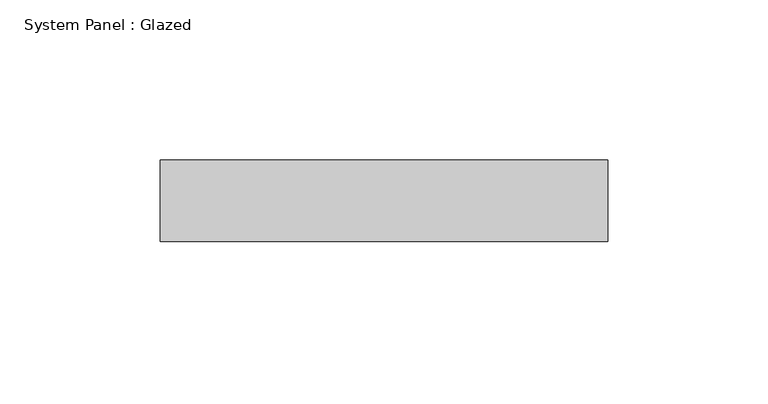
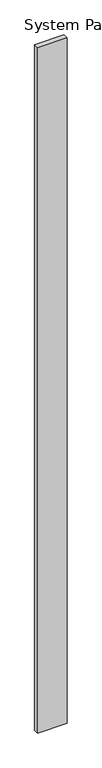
"""IFC4 building model written with IfcOpenShell, lengths in millimetres: plate geometry, System Panel : Glazed."""

import ifcopenshell
import ifcopenshell.guid

model = None  # the IFC model being written
_history = None  # IfcOwnerHistory: only IFC2X3 demands one
_inside = {}  # id of a spatial element -> (the spatial element, [elements in it])
_under = {}  # id of a project, library or spatial element -> (it, [spatial elements below it])
_declared = {}  # id of a project -> (the project, [libraries it declares])
_typed = {}  # id of a type object -> (the type object, [elements of that type])
_made_of = {}  # id of a material, layer set ... -> (it, [elements and type objects made of it])


def new_model(schema):
    """Start an empty IFC model of exactly this schema.

    Asked for "IFC4X3", IfcOpenShell would pick the latest addendum, in which some entities
    have other attributes; the version numbers below select the first issue.
    IFC2X3 requires an IfcOwnerHistory on every rooted entity: one is made here for all.
    """
    global model, _history
    if schema == "IFC4X3":
        model = ifcopenshell.file(schema_version=(4, 3, 0, 0))
    else:
        model = ifcopenshell.file(schema=schema)
    _inside.clear()
    _under.clear()
    _declared.clear()
    _typed.clear()
    _made_of.clear()
    _history = None
    if model.schema == "IFC2X3":
        org = make("IfcOrganization", Name="unknown")
        user = make(
            "IfcPersonAndOrganization",
            ThePerson=make("IfcPerson", FamilyName="unknown"),
            TheOrganization=org,
        )
        app = make(
            "IfcApplication",
            ApplicationDeveloper=org,
            Version="unknown",
            ApplicationFullName="unknown",
            ApplicationIdentifier="unknown",
        )
        _history = make(
            "IfcOwnerHistory",
            OwningUser=user,
            OwningApplication=app,
            ChangeAction="ADDED",
            CreationDate=0,
        )
    return model


def make(cls, **values):
    """One entity of the class cls with the attributes given. An attribute that is None is left unset."""
    return model.create_entity(
        cls, **{name: value for name, value in values.items() if value is not None}
    )


def rooted(cls, **values):
    """An entity with a GlobalId (a new one), such as an element, a storey or a relation."""
    return make(cls, GlobalId=ifcopenshell.guid.new(), OwnerHistory=_history, **values)


def si_unit(unit_type, name, prefix=None):
    """IfcSIUnit, for example si_unit("LENGTHUNIT", "METRE", prefix="MILLI")."""
    return make("IfcSIUnit", UnitType=unit_type, Prefix=prefix, Name=name)


def assignment(units):
    """IfcUnitAssignment: the units of a project."""
    return None if units is None else make("IfcUnitAssignment", Units=units)


def point(xyz):
    """IfcCartesianPoint."""
    return None if xyz is None else make("IfcCartesianPoint", Coordinates=xyz)


def direction(xyz):
    """IfcDirection."""
    return None if xyz is None else make("IfcDirection", DirectionRatios=xyz)


def frame(location, z_axis=None, x_axis=None):
    """IfcAxis2Placement3D, a coordinate frame: its origin and axes. An axis left out is left unset."""
    return make(
        "IfcAxis2Placement3D",
        Location=point(location),
        Axis=direction(z_axis),
        RefDirection=direction(x_axis),
    )


def origin():
    """The frame at (0, 0, 0) with its axes left unset."""
    return frame((0.0, 0.0, 0.0))


def origin_with_axes():
    """The frame at (0, 0, 0) with the z axis (0, 0, 1) and the x axis (1, 0, 0) written out."""
    return frame((0.0, 0.0, 0.0), z_axis=(0.0, 0.0, 1.0), x_axis=(1.0, 0.0, 0.0))


def place(relative_to, where):
    """IfcLocalPlacement: puts the frame where relative to a parent placement (None: the world)."""
    return make(
        "IfcLocalPlacement", PlacementRelTo=relative_to, RelativePlacement=where
    )


def context(
    kind, dimensions, precision=None, world=None, true_north=None, identifier=None
):
    """IfcGeometricRepresentationContext, for example the 3D "Model" context."""
    return make(
        "IfcGeometricRepresentationContext",
        ContextIdentifier=identifier,
        ContextType=kind,
        CoordinateSpaceDimension=dimensions,
        Precision=precision,
        WorldCoordinateSystem=world,
        TrueNorth=true_north,
    )


def project(units=None, contexts=None):
    """IfcProject with its units and contexts."""
    return rooted(
        "IfcProject",
        Name="project",
        RepresentationContexts=contexts,
        UnitsInContext=assignment(units),
    )


def spatial(cls, under=None, at=None, **own):
    """A site, building, storey or space (cls), placed at a placement, below another one or the project."""
    s = rooted(cls, ObjectPlacement=at, **own)
    if under is not None:
        _under.setdefault(under.id(), (under, []))[1].append(s)
    return s


def polyline(points):
    """IfcPolyline through the points."""
    return make("IfcPolyline", Points=[point(p) for p in points])


def outline(outer, holes=None, kind="AREA"):
    """IfcArbitraryClosedProfileDef: a profile drawn as a closed curve; with holes, ...WithVoids."""
    if holes is None:
        return make("IfcArbitraryClosedProfileDef", ProfileType=kind, OuterCurve=outer)
    return make(
        "IfcArbitraryProfileDefWithVoids",
        ProfileType=kind,
        OuterCurve=outer,
        InnerCurves=holes,
    )


def extrude(swept, where, along, depth):
    """IfcExtrudedAreaSolid: the profile swept, set in the frame where, extruded along a direction by depth."""
    return make(
        "IfcExtrudedAreaSolid",
        SweptArea=swept,
        Position=where,
        ExtrudedDirection=direction(along),
        Depth=depth,
    )


def shape(context_of_items, identifier, shape_type, items):
    """IfcShapeRepresentation: the items that make up one representation, for example the "Body"."""
    return make(
        "IfcShapeRepresentation",
        ContextOfItems=context_of_items,
        RepresentationIdentifier=identifier,
        RepresentationType=shape_type,
        Items=items,
    )


def source(mapping_origin, context_of_items, identifier, shape_type, items):
    """IfcRepresentationMap: a shape defined once, which mapped items show again and again."""
    return make(
        "IfcRepresentationMap",
        MappingOrigin=mapping_origin,
        MappedRepresentation=shape(context_of_items, identifier, shape_type, items),
    )


def transform(
    local_origin,
    x_axis=None,
    y_axis=None,
    z_axis=None,
    scale=None,
    scale2=None,
    scale3=None,
    uniform=True,
):
    """IfcCartesianTransformationOperator3D, or its non-uniform kind. x_axis, y_axis, z_axis: its Axis1, 2, 3."""
    if uniform:
        return make(
            "IfcCartesianTransformationOperator3D",
            Axis1=direction(x_axis),
            Axis2=direction(y_axis),
            LocalOrigin=point(local_origin),
            Scale=scale,
            Axis3=direction(z_axis),
        )
    return make(
        "IfcCartesianTransformationOperator3DnonUniform",
        Axis1=direction(x_axis),
        Axis2=direction(y_axis),
        LocalOrigin=point(local_origin),
        Scale=scale,
        Axis3=direction(z_axis),
        Scale2=scale2,
        Scale3=scale3,
    )


def mapped(mapping_source, mapping_target):
    """IfcMappedItem: shows the shape of a source again, moved by a transform."""
    return make(
        "IfcMappedItem", MappingSource=mapping_source, MappingTarget=mapping_target
    )


def made_of(thing, what):
    """Note that an element or type object is made of a material, layer set ...; save() writes the relation."""
    if what is not None:
        _made_of.setdefault(what.id(), (what, []))[1].append(thing)
    return thing


def element(
    cls,
    number,
    at=None,
    inside=None,
    cuts=None,
    type_object=None,
    material=None,
    context=None,
    identifier="Body",
    shape_type=None,
    held_by="IfcProductDefinitionShape",
    body=None,
    shapes=None,
    **own,
):
    """One element of the class cls, such as IfcWall. Its Tag is "e" and its number.

    at: its placement. inside: the storey or other place that contains it. cuts: it is an
    opening in that element (IfcRelVoidsElement). A single representation is given by context,
    identifier, shape_type and body (its items); several are given by shapes. held_by: the class
    of the entity that holds the representations. save() writes the other relations.
    """
    e = rooted(cls, Tag="e%d" % number, ObjectPlacement=at, **own)
    if body is not None:
        shapes = [shape(context, identifier, shape_type, body)]
    if shapes is not None:
        e.Representation = make(held_by, Representations=shapes)
    if inside is not None:
        _inside.setdefault(inside.id(), (inside, []))[1].append(e)
    if cuts is not None:
        rooted(
            "IfcRelVoidsElement", RelatingBuildingElement=cuts, RelatedOpeningElement=e
        )
    if type_object is not None:
        _typed.setdefault(type_object.id(), (type_object, []))[1].append(e)
    return made_of(e, material)


def aggregate(whole, parts):
    """IfcRelAggregates: a whole, such as a stair, and the parts it consists of."""
    return rooted("IfcRelAggregates", RelatingObject=whole, RelatedObjects=parts)


def save(model, path):
    """Write the relations noted so far, then the file.

    IfcRelAggregates (storeys below a building ...), IfcRelContainedInSpatialStructure (elements
    in a storey), IfcRelDefinesByType, IfcRelAssociatesMaterial and IfcRelDeclares: one each for
    every whole, place, type object, material and project.
    """
    for whole, parts in _under.values():
        aggregate(whole, parts)
    for where, things in _inside.values():
        rooted(
            "IfcRelContainedInSpatialStructure",
            RelatedElements=things,
            RelatingStructure=where,
        )
    for kind, things in _typed.values():
        rooted("IfcRelDefinesByType", RelatedObjects=things, RelatingType=kind)
    for what, things in _made_of.values():
        rooted("IfcRelAssociatesMaterial", RelatedObjects=things, RelatingMaterial=what)
    for by, libraries in _declared.values():
        rooted("IfcRelDeclares", RelatingContext=by, RelatedDefinitions=libraries)
    model.write(path)


def system_panel_glazed_c127a6e8(model_context):
    return source(origin(), model_context, "Body", "SweptSolid", [
        extrude(outline(polyline([(69.649919, 19.05), (-69.649919, 19.05), (-69.649919, 44.45), (69.649919, 44.45), (69.649919, 19.05)])), origin_with_axes(), (0.0, 0.0, 1.0), 3454.4),
    ])


if __name__ == "__main__":
    model = new_model("IFC4")
    model_context = context("Model", 3, world=origin())
    ifc_project = project(units=[si_unit("LENGTHUNIT", "METRE", prefix="MILLI")], contexts=[model_context])
    site = spatial("IfcSite", under=ifc_project)
    building = spatial("IfcBuilding", under=site)
    placement = place(None, origin())
    system_panel_glazed_shape = system_panel_glazed_c127a6e8(model_context)
    element("IfcPlate", 1, ObjectType="System Panel : Glazed", at=placement, inside=building, context=model_context, shape_type="MappedRepresentation", body=[
        mapped(system_panel_glazed_shape, transform((0.0, 0.0, 0.0), x_axis=(1.0, 0.0, 0.0), y_axis=(0.0, 1.0, 0.0), z_axis=(0.0, 0.0, 1.0))),
    ])
    save(model, "model.ifc")
